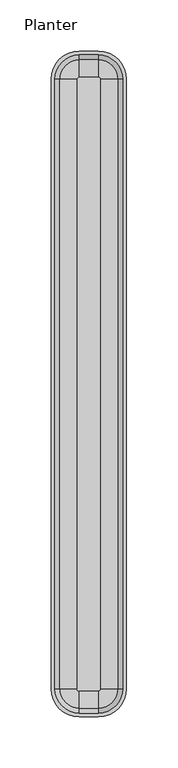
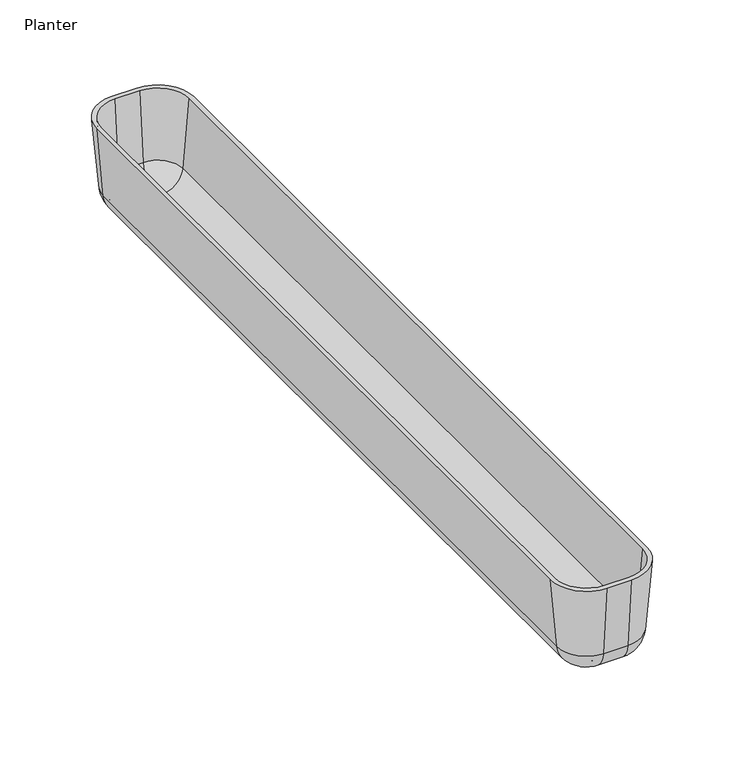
"""IFC4 building model written with IfcOpenShell, lengths in millimetres: furniture geometry, Steelcase Turnstone - Bivi - Arch Accessories - Holder and Planter : Planter."""

from ifc_helpers import new_model, si_unit, point, frame, origin, place, context, project, spatial, polyline, circle_curve, ellipse_curve, trimmed, source, transform, mapped, element, save
from ifc_brep_helpers import plane_surface, cylinder_surface, revolved_surface, advanced_brep


def planter_e9aa8756(model_context):
    return source(origin(), model_context, "Body", "AdvancedBrep", [
        advanced_brep(
        [(-9.4480736, 326.4806307, 525.2987367), (-9.4480736, 346.2134859, 543.3805671), (8.9373537, 346.2134859, 543.3805671), (8.9373537, 326.4806307, 525.2987367), (-9.4480736, 342.5832981, 544.3008765), (-9.4480736, 325.8865844, 529.0069667), (8.9373537, 325.8865844, 529.0069667), (8.9373537, 342.5832981, 544.3008765), (8.9373537, 347.3860828, 598.9587754), (-9.4480736, 347.3860828, 598.9587754), (-9.4480736, 351.075949, 598.9587754), (8.9373537, 351.075949, 598.9587754), (12.0359728, 323.3820115, 525.2987367), (31.768828, 323.3820115, 543.3805671), (31.768828, -272.6679521, 543.3805671), (12.0359728, -272.6679521, 525.2987367), (28.1386403, 323.3820115, 544.3008765), (11.4419265, 323.3820115, 529.0069667), (11.4419265, -272.6679521, 529.0069667), (28.1386403, -272.6679521, 544.3008765), (32.941425, -272.6679521, 598.9587754), (32.941425, 323.3820115, 598.9587754), (36.6312912, 323.3820115, 598.9587754), (36.6312912, -272.6679521, 598.9587754), (8.9373537, -275.7665712, 525.2987367), (8.9373537, -295.4994264, 543.3805671), (-9.4480736, -295.4994264, 543.3805671), (-9.4480736, -275.7665712, 525.2987367), (8.9373537, -291.8692387, 544.3008765), (8.9373537, -275.1725249, 529.0069667), (-9.4480736, -275.1725249, 529.0069667), (-9.4480736, -291.8692387, 544.3008765), (-9.4480736, -296.6720234, 598.9587754), (8.9373537, -296.6720234, 598.9587754), (8.9373537, -300.3618896, 598.9587754), (-9.4480736, -300.3618896, 598.9587754), (-12.5466927, -272.6679521, 525.2987367), (-32.2795479, -272.6679521, 543.3805671), (-32.2795479, 323.3820115, 543.3805671), (-12.5466927, 323.3820115, 525.2987367), (-28.6493602, -272.6679521, 544.3008765), (-11.9526464, -272.6679521, 529.0069667), (-11.9526464, 323.3820115, 529.0069667), (-28.6493602, 323.3820115, 544.3008765), (-33.4521448, 323.3820115, 598.9587754), (-33.4521448, -272.6679521, 598.9587754), (-37.1420111, -272.6679521, 598.9587754), (-37.1420111, 323.3820115, 598.9587754)],
        [
            (0, 1, circle_curve(frame((-9.4480736, 326.4806307, 545.1069682), z_axis=(1.0, 0.0, 0.0), x_axis=(0.0, 1.0, 0.0)), 19.8082315)),
            (1, 2),
            (2, 3, circle_curve(frame((8.9373537, 326.4806307, 545.1069682), z_axis=(-1.0, 0.0, 0.0), x_axis=(0.0, 1.0, 0.0)), 19.8082315)),
            (3, 0),
            (4, 5, circle_curve(frame((-9.4480736, 325.8865844, 545.7680152), z_axis=(-1.0, 0.0, 0.0), x_axis=(0.0, -1.0, 0.0)), 16.7610485)),
            (5, 6),
            (6, 7, circle_curve(frame((8.9373537, 325.8865844, 545.7680152), z_axis=(1.0, 0.0, 0.0), x_axis=(0.0, -1.0, 0.0)), 16.7610485)),
            (7, 4),
            (7, 8),
            (8, 9),
            (9, 4),
            (1, 10),
            (10, 11),
            (11, 2),
            (12, 13, circle_curve(frame((12.0359728, 323.3820115, 545.1069682), z_axis=(0.0, -1.0, 0.0), x_axis=(1.0, 0.0, 0.0)), 19.8082315)),
            (13, 14),
            (14, 15, circle_curve(frame((12.0359728, -272.6679521, 545.1069682), z_axis=(0.0, 1.0, 0.0), x_axis=(1.0, 0.0, 0.0)), 19.8082315)),
            (15, 12),
            (16, 17, circle_curve(frame((11.4419265, 323.3820115, 545.7680152), z_axis=(0.0, 1.0, 0.0), x_axis=(-1.0, 0.0, 0.0)), 16.7610485)),
            (17, 18),
            (18, 19, circle_curve(frame((11.4419265, -272.6679521, 545.7680152), z_axis=(0.0, -1.0, 0.0), x_axis=(-1.0, 0.0, 0.0)), 16.7610485)),
            (19, 16),
            (19, 20),
            (20, 21),
            (21, 16),
            (13, 22),
            (22, 23),
            (23, 14),
            (24, 25, circle_curve(frame((8.9373537, -275.7665712, 545.1069682), z_axis=(-1.0, 0.0, 0.0), x_axis=(0.0, -1.0, 0.0)), 19.8082315)),
            (25, 26),
            (26, 27, circle_curve(frame((-9.4480736, -275.7665712, 545.1069682), z_axis=(1.0, 0.0, 0.0), x_axis=(0.0, -1.0, 0.0)), 19.8082315)),
            (27, 24),
            (28, 29, circle_curve(frame((8.9373537, -275.1725249, 545.7680152), z_axis=(1.0, 0.0, 0.0), x_axis=(0.0, 1.0, 0.0)), 16.7610485)),
            (29, 30),
            (30, 31, circle_curve(frame((-9.4480736, -275.1725249, 545.7680152), z_axis=(-1.0, 0.0, 0.0), x_axis=(0.0, 1.0, 0.0)), 16.7610485)),
            (31, 28),
            (31, 32),
            (32, 33),
            (33, 28),
            (25, 34),
            (34, 35),
            (35, 26),
            (36, 37, circle_curve(frame((-12.5466927, -272.6679521, 545.1069682), z_axis=(0.0, 1.0, 0.0), x_axis=(-1.0, 0.0, 0.0)), 19.8082315)),
            (37, 38),
            (38, 39, circle_curve(frame((-12.5466927, 323.3820115, 545.1069682), z_axis=(0.0, -1.0, 0.0), x_axis=(-1.0, 0.0, 0.0)), 19.8082315)),
            (39, 36),
            (40, 41, circle_curve(frame((-11.9526464, -272.6679521, 545.7680152), z_axis=(0.0, -1.0, 0.0), x_axis=(1.0, 0.0, 0.0)), 16.7610485)),
            (41, 42),
            (42, 43, circle_curve(frame((-11.9526464, 323.3820115, 545.7680152), z_axis=(0.0, 1.0, 0.0), x_axis=(1.0, 0.0, 0.0)), 16.7610485)),
            (43, 40),
            (43, 44),
            (44, 45),
            (45, 40),
            (37, 46),
            (46, 47),
            (47, 38),
            (0, 39, circle_curve(frame((-9.4480736, 323.3820115, 525.2987367), z_axis=(0.0, 0.0, 1.0), x_axis=(-1.0, 0.0, 0.0)), 3.0986191)),
            (38, 1, circle_curve(frame((-9.4480736, 323.3820115, 543.3805671), z_axis=(0.0, 0.0, -1.0), x_axis=(-1.0, 0.0, 0.0)), 22.8314743)),
            (4, 43, circle_curve(frame((-9.4480736, 323.3820115, 544.3008765), z_axis=(0.0, 0.0, 1.0), x_axis=(-1.0, 0.0, 0.0)), 19.2012866)),
            (42, 5, circle_curve(frame((-9.4480736, 323.3820115, 529.0069667), z_axis=(0.0, 0.0, -1.0), x_axis=(-1.0, 0.0, 0.0)), 2.5045728)),
            (9, 44, circle_curve(frame((-9.4480736, 323.3820115, 598.9587754), z_axis=(0.0, 0.0, 1.0), x_axis=(-1.0, 0.0, 0.0)), 24.0040713)),
            (47, 10, circle_curve(frame((-9.4480736, 323.3820115, 598.9587754), z_axis=(0.0, 0.0, -1.0), x_axis=(-1.0, 0.0, 0.0)), 27.6939375)),
            (2, 13, circle_curve(frame((8.9373537, 323.3820115, 543.3805671), z_axis=(0.0, 0.0, -1.0), x_axis=(0.0, 1.0, 0.0)), 22.8314743)),
            (12, 3, circle_curve(frame((8.9373537, 323.3820115, 525.2987367), z_axis=(0.0, 0.0, 1.0), x_axis=(0.0, 1.0, 0.0)), 3.0986191)),
            (6, 17, circle_curve(frame((8.9373537, 323.3820115, 529.0069667), z_axis=(0.0, 0.0, -1.0), x_axis=(0.0, 1.0, 0.0)), 2.5045728)),
            (16, 7, circle_curve(frame((8.9373537, 323.3820115, 544.3008765), z_axis=(0.0, 0.0, 1.0), x_axis=(0.0, 1.0, 0.0)), 19.2012866)),
            (21, 8, circle_curve(frame((8.9373537, 323.3820115, 598.9587754), z_axis=(0.0, 0.0, 1.0), x_axis=(0.0, 1.0, 0.0)), 24.0040713)),
            (11, 22, circle_curve(frame((8.9373537, 323.3820115, 598.9587754), z_axis=(0.0, 0.0, -1.0), x_axis=(0.0, 1.0, 0.0)), 27.6939375)),
            (14, 25, circle_curve(frame((8.9373537, -272.6679521, 543.3805671), z_axis=(0.0, 0.0, -1.0), x_axis=(1.0, 0.0, 0.0)), 22.8314743)),
            (24, 15, circle_curve(frame((8.9373537, -272.6679521, 525.2987367), z_axis=(0.0, 0.0, 1.0), x_axis=(1.0, 0.0, 0.0)), 3.0986191)),
            (18, 29, circle_curve(frame((8.9373537, -272.6679521, 529.0069667), z_axis=(0.0, 0.0, -1.0), x_axis=(1.0, 0.0, 0.0)), 2.5045728)),
            (28, 19, circle_curve(frame((8.9373537, -272.6679521, 544.3008765), z_axis=(0.0, 0.0, 1.0), x_axis=(1.0, 0.0, 0.0)), 19.2012866)),
            (33, 20, circle_curve(frame((8.9373537, -272.6679521, 598.9587754), z_axis=(0.0, 0.0, 1.0), x_axis=(1.0, 0.0, 0.0)), 24.0040713)),
            (23, 34, circle_curve(frame((8.9373537, -272.6679521, 598.9587754), z_axis=(0.0, 0.0, -1.0), x_axis=(1.0, 0.0, 0.0)), 27.6939375)),
            (26, 37, circle_curve(frame((-9.4480736, -272.6679521, 543.3805671), z_axis=(0.0, 0.0, -1.0), x_axis=(0.0, -1.0, 0.0)), 22.8314743)),
            (36, 27, circle_curve(frame((-9.4480736, -272.6679521, 525.2987367), z_axis=(0.0, 0.0, 1.0), x_axis=(0.0, -1.0, 0.0)), 3.0986191)),
            (41, 30, circle_curve(frame((-9.4480736, -272.6679521, 529.0069667), z_axis=(0.0, 0.0, 1.0), x_axis=(0.0, -1.0, 0.0)), 2.5045728)),
            (40, 31, circle_curve(frame((-9.4480736, -272.6679521, 544.3008765), z_axis=(0.0, 0.0, 1.0), x_axis=(0.0, -1.0, 0.0)), 19.2012866)),
            (45, 32, circle_curve(frame((-9.4480736, -272.6679521, 598.9587754), z_axis=(0.0, 0.0, 1.0), x_axis=(0.0, -1.0, 0.0)), 24.0040713)),
            (46, 35, circle_curve(frame((-9.4480736, -272.6679521, 598.9587754), z_axis=(0.0, 0.0, 1.0), x_axis=(0.0, -1.0, 0.0)), 27.6939375)),
        ],
        [
            cylinder_surface(frame((-9.4480736, 326.4806307, 545.1069682), z_axis=(-1.0, 0.0, 0.0), x_axis=(0.0, 1.0, 0.0)), 19.8082315),
            revolved_surface(polyline([(8.9373537, 309.1255359, 545.7680152), (-9.4480736, 309.1255359, 545.7680152)]), (-9.4480736, 325.8865844, 545.7680152), (1.0, 0.0, 0.0)),
            plane_surface(frame((-9.4480736, 342.5832981, 544.3008765), z_axis=(0.0, -0.9961616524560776, 0.08753263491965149), x_axis=(1.0, 0.0, 0.0))),
            plane_surface(frame((-9.4480736, 351.075949, 598.9587754), z_axis=(0.0, 0.9961946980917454, -0.08715574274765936), x_axis=(1.0, 0.0, 0.0))),
            cylinder_surface(frame((12.0359728, 323.3820115, 545.1069682), z_axis=(0.0, 1.0, 0.0), x_axis=(1.0, 0.0, 0.0)), 19.8082315),
            revolved_surface(polyline([(-5.319122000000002, -272.6679521, 545.7680152), (-5.319122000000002, 323.3820115, 545.7680152)]), (11.4419265, 323.3820115, 545.7680152), (0.0, -1.0, 0.0)),
            plane_surface(frame((28.1386403, 323.3820115, 544.3008765), z_axis=(-0.9961616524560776, 0.0, 0.08753263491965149), x_axis=(0.0, -1.0, 0.0))),
            plane_surface(frame((36.6312912, 323.3820115, 598.9587754), z_axis=(0.9961946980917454, 0.0, -0.08715574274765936), x_axis=(0.0, -1.0, 0.0))),
            cylinder_surface(frame((8.9373537, -275.7665712, 545.1069682), z_axis=(1.0, 0.0, 0.0), x_axis=(0.0, -1.0, 0.0)), 19.8082315),
            revolved_surface(polyline([(-9.4480736, -258.41147639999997, 545.7680152), (8.9373537, -258.41147639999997, 545.7680152)]), (8.9373537, -275.1725249, 545.7680152), (-1.0, 0.0, 0.0)),
            plane_surface(frame((8.9373537, -291.8692387, 544.3008765), z_axis=(0.0, 0.9961616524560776, 0.08753263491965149), x_axis=(-1.0, 0.0, 0.0))),
            plane_surface(frame((8.9373537, -300.3618896, 598.9587754), z_axis=(0.0, -0.9961946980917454, -0.08715574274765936), x_axis=(-1.0, 0.0, 0.0))),
            cylinder_surface(frame((-12.5466927, -272.6679521, 545.1069682), z_axis=(0.0, -1.0, 0.0), x_axis=(-1.0, 0.0, 0.0)), 19.8082315),
            revolved_surface(polyline([(4.8084021, 323.3820115, 545.7680152), (4.8084021, -272.6679521, 545.7680152)]), (-11.9526464, -272.6679521, 545.7680152), (0.0, 1.0, 0.0)),
            plane_surface(frame((-28.6493602, -272.6679521, 544.3008765), z_axis=(0.9961616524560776, 0.0, 0.08753263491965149), x_axis=(0.0, 1.0, 0.0))),
            plane_surface(frame((-37.1420111, -272.6679521, 598.9587754), z_axis=(-0.9961946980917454, 0.0, -0.08715574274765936), x_axis=(0.0, 1.0, 0.0))),
            revolved_surface(trimmed(ellipse_curve(frame((-12.5466927, 323.3820115, 545.1069682), z_axis=(0.0, -1.0, 0.0), x_axis=(-1.0, 0.0, 0.0)), 19.8082315, 19.8082315), [point((-32.2795479, 323.3820115, 543.3805671))], [point((-12.5466927, 323.3820115, 525.2987367))], True, "CARTESIAN"), (-9.4480736, 323.3820115, 523.0318571), (0.0, 0.0, -1.0)),
            revolved_surface(trimmed(ellipse_curve(frame((-11.9526464, 323.3820115, 545.7680152), z_axis=(0.0, 1.0, 0.0), x_axis=(1.0, 0.0, 0.0)), 16.7610485, 16.7610485), [point((-11.9526464, 323.3820115, 529.0069667))], [point((-28.6493602, 323.3820115, 544.3008765))], True, "CARTESIAN"), (-9.4480736, 323.3820115, 523.0318571), (0.0, 0.0, -1.0)),
            revolved_surface(polyline([(-28.6493602, 323.3820115, 544.3008765), (-33.4521448, 323.3820115, 598.9587754)]), (-9.4480736, 323.3820115, 523.0318571), (0.0, 0.0, -1.0)),
            revolved_surface(polyline([(-37.1420111, 323.3820115, 598.9587754), (-32.2795479, 323.3820115, 543.3805671)]), (-9.4480736, 323.3820115, 523.0318571), (0.0, 0.0, -1.0)),
            revolved_surface(trimmed(ellipse_curve(frame((8.9373537, 326.4806307, 545.1069682), z_axis=(-1.0, 0.0, 0.0), x_axis=(0.0, 1.0, 0.0)), 19.8082315, 19.8082315), [point((8.9373537, 346.2134859, 543.3805671))], [point((8.9373537, 326.4806307, 525.2987367))], True, "CARTESIAN"), (8.9373537, 323.3820115, 523.0318571), (0.0, 0.0, -1.0)),
            revolved_surface(trimmed(ellipse_curve(frame((8.9373537, 325.8865844, 545.7680152), z_axis=(1.0, 0.0, 0.0), x_axis=(0.0, -1.0, 0.0)), 16.7610485, 16.7610485), [point((8.9373537, 325.8865844, 529.0069667))], [point((8.9373537, 342.5832981, 544.3008765))], True, "CARTESIAN"), (8.9373537, 323.3820115, 523.0318571), (0.0, 0.0, -1.0)),
            revolved_surface(polyline([(8.9373537, 342.5832981, 544.3008765), (8.9373537, 347.3860828, 598.9587754)]), (8.9373537, 323.3820115, 523.0318571), (0.0, 0.0, -1.0)),
            revolved_surface(polyline([(8.9373537, 351.075949, 598.9587754), (8.9373537, 346.2134859, 543.3805671)]), (8.9373537, 323.3820115, 523.0318571), (0.0, 0.0, -1.0)),
            revolved_surface(trimmed(ellipse_curve(frame((12.0359728, -272.6679521, 545.1069682), z_axis=(0.0, 1.0, 0.0), x_axis=(1.0, 0.0, 0.0)), 19.8082315, 19.8082315), [point((31.768828, -272.6679521, 543.3805671))], [point((12.0359728, -272.6679521, 525.2987367))], True, "CARTESIAN"), (8.9373537, -272.6679521, 523.0318571), (0.0, 0.0, -1.0)),
            revolved_surface(trimmed(ellipse_curve(frame((11.4419265, -272.6679521, 545.7680152), z_axis=(0.0, -1.0, 0.0), x_axis=(-1.0, 0.0, 0.0)), 16.7610485, 16.7610485), [point((11.4419265, -272.6679521, 529.0069667))], [point((28.1386403, -272.6679521, 544.3008765))], True, "CARTESIAN"), (8.9373537, -272.6679521, 523.0318571), (0.0, 0.0, -1.0)),
            revolved_surface(polyline([(28.1386403, -272.6679521, 544.3008765), (32.941425, -272.6679521, 598.9587754)]), (8.9373537, -272.6679521, 523.0318571), (0.0, 0.0, -1.0)),
            revolved_surface(polyline([(36.6312912, -272.6679521, 598.9587754), (31.768828, -272.6679521, 543.3805671)]), (8.9373537, -272.6679521, 523.0318571), (0.0, 0.0, -1.0)),
            revolved_surface(trimmed(ellipse_curve(frame((-9.4480736, -275.7665712, 545.1069682), z_axis=(1.0, 0.0, 0.0), x_axis=(0.0, -1.0, 0.0)), 19.8082315, 19.8082315), [point((-9.4480736, -295.4994264, 543.3805671))], [point((-9.4480736, -275.7665712, 525.2987367))], True, "CARTESIAN"), (-9.4480736, -272.6679521, 523.0318571), (0.0, 0.0, -1.0)),
            plane_surface(frame((-9.4480736, -272.6679521, 525.2987367), z_axis=(0.0, 0.0, -1.0), x_axis=(0.0, -1.0, 0.0))),
            plane_surface(frame((-9.4480736, -272.6679521, 529.0069667), z_axis=(0.0, 0.0, 1.0), x_axis=(0.0, -1.0, 0.0))),
            revolved_surface(trimmed(ellipse_curve(frame((-9.4480736, -275.1725249, 545.7680152), z_axis=(-1.0, 0.0, 0.0), x_axis=(0.0, 1.0, 0.0)), 16.7610485, 16.7610485), [point((-9.4480736, -275.1725249, 529.0069667))], [point((-9.4480736, -291.8692387, 544.3008765))], True, "CARTESIAN"), (-9.4480736, -272.6679521, 523.0318571), (0.0, 0.0, -1.0)),
            revolved_surface(polyline([(-9.4480736, -291.8692387, 544.3008765), (-9.4480736, -296.6720234, 598.9587754)]), (-9.4480736, -272.6679521, 523.0318571), (0.0, 0.0, -1.0)),
            plane_surface(frame((-9.4480736, -272.6679521, 598.9587754), z_axis=(0.0, 0.0, 1.0), x_axis=(0.0, -1.0, 0.0))),
            revolved_surface(polyline([(-9.4480736, -300.3618896, 598.9587754), (-9.4480736, -295.4994264, 543.3805671)]), (-9.4480736, -272.6679521, 523.0318571), (0.0, 0.0, -1.0)),
        ],
        [
            (0, [[1, 2, 3, 4]]),
            (1, [[5, 6, 7, 8]]),
            (2, [[-8, 9, 10, 11]]),
            (3, [[-2, 12, 13, 14]]),
            (4, [[15, 16, 17, 18]]),
            (5, [[19, 20, 21, 22]]),
            (6, [[-22, 23, 24, 25]]),
            (7, [[-16, 26, 27, 28]]),
            (8, [[29, 30, 31, 32]]),
            (9, [[33, 34, 35, 36]]),
            (10, [[-36, 37, 38, 39]]),
            (11, [[-30, 40, 41, 42]]),
            (12, [[43, 44, 45, 46]]),
            (13, [[47, 48, 49, 50]]),
            (14, [[-50, 51, 52, 53]]),
            (15, [[-44, 54, 55, 56]]),
            (16, [[-1, 57, -45, 58]]),
            (17, [[-5, 59, -49, 60]]),
            (18, [[-11, 61, -51, -59]]),
            (19, [[-12, -58, -56, 62]]),
            (20, [[-3, 63, -15, 64]]),
            (21, [[-7, 65, -19, 66]]),
            (22, [[-9, -66, -25, 67]]),
            (23, [[-14, 68, -26, -63]]),
            (24, [[-17, 69, -29, 70]]),
            (25, [[-21, 71, -33, 72]]),
            (26, [[-23, -72, -39, 73]]),
            (27, [[-28, 74, -40, -69]]),
            (28, [[-31, 75, -43, 76]]),
            (29, [[-4, -64, -18, -70, -32, -76, -46, -57]]),
            (30, [[-6, -60, -48, 77, -34, -71, -20, -65]]),
            (31, [[-35, -77, -47, 78]]),
            (32, [[-37, -78, -53, 79]]),
            (33, [[-13, -62, -55, 80, -41, -74, -27, -68], [-10, -67, -24, -73, -38, -79, -52, -61]]),
            (34, [[-42, -80, -54, -75]]),
        ],
    ),
    ])


if __name__ == "__main__":
    model = new_model("IFC4")
    model_context = context("Model", 3, world=origin())
    ifc_project = project(units=[si_unit("LENGTHUNIT", "METRE", prefix="MILLI")], contexts=[model_context])
    site = spatial("IfcSite", under=ifc_project)
    building = spatial("IfcBuilding", under=site)
    placement = place(None, origin())
    planter_shape = planter_e9aa8756(model_context)
    element("IfcFurniture", 1, ObjectType="Steelcase Turnstone - Bivi - Arch Accessories - Holder and Planter : Planter", at=placement, inside=building, context=model_context, shape_type="MappedRepresentation", body=[
        mapped(planter_shape, transform((0.0, 0.0, 0.0), x_axis=(1.0, 0.0, 0.0), y_axis=(0.0, 1.0, 0.0), z_axis=(0.0, 0.0, 1.0))),
    ])
    save(model, "model.ifc")
